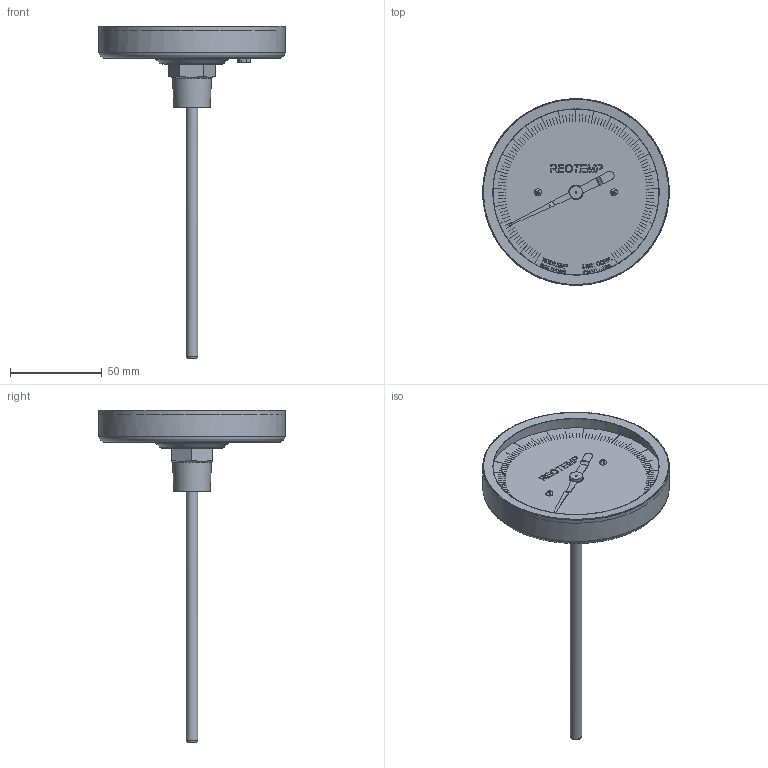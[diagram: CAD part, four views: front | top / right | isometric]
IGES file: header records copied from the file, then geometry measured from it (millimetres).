
Global section: file name: CC-half-NPT-IGS; native system: Autodesk Inventor 2014; preprocessor: unknown; author: Charles; date: 20151109.111738; units: inch
Bounding box: 101.59 x 101.59 x 180.77 mm (x, y, z)
Volume: 62855.6 mm3; surface area: 48395.1 mm2
Topology: 16 solids, 16 shells, 1274 faces, 3304 edges, 2200 vertices
Faces by surface type: bspline 1274
